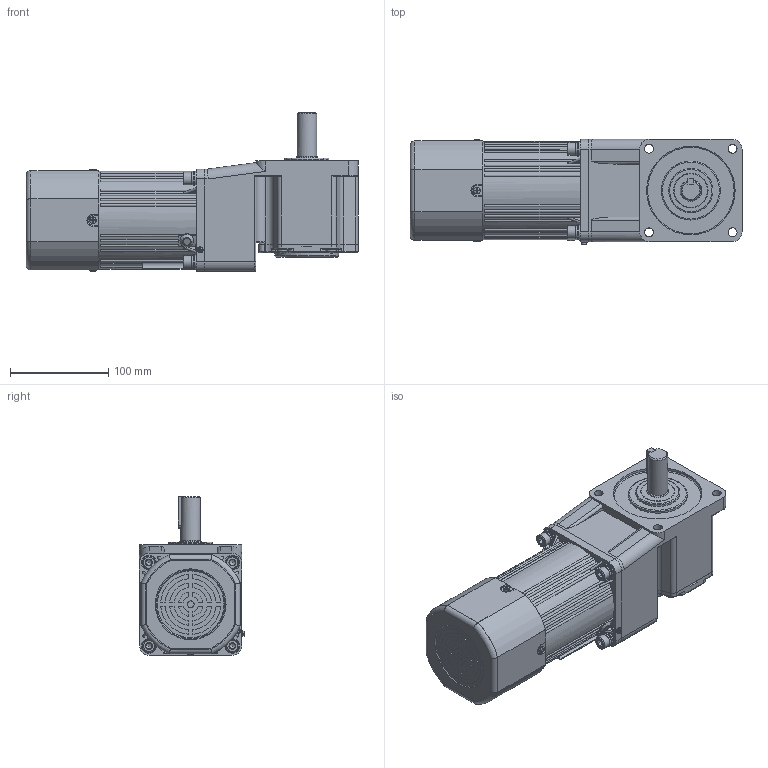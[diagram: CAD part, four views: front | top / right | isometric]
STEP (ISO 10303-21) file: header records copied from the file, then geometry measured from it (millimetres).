
FILE_DESCRIPTION(/* description */ (''),/* implementation_level */ '2;1');
FILE_NAME(/* name */ '100+直角中实-刹车调速风叶-120-140W 新版.stp',/* time_stamp */ '2025-03-25T15:10:24+08:00',/* author */ (''),/* organization */ (''),/* preprocessor_version */ 'ST-DEVELOPER v18.102',/* originating_system */ 'SIEMENS PLM Software NX 2027',/* authorisation */ '');
FILE_SCHEMA (('AP203_CONFIGURATION_CONTROLLED_3D_DESIGN_OF_MECHANICAL_PARTS_AND_ASSEMBLIES_MIM_LF { 1 0 10303 403 2 1 2}'));
Length unit declared in the file: millimetre
Products named in the file (1): 6RK120-140CC·MRF_6GU3-750K-C·15L_stp_M066166857A1
nllv
Bounding box: 337.5 x 106.83 x 161.53 mm (x, y, z)
Volume: 3256472.7 mm3; surface area: 413067.6 mm2
Topology: 25 solids, 25 shells, 1698 faces, 4381 edges, 2837 vertices
Faces by surface type: plane 743, cylinder 527, bspline 213, torus 100, cone 91, sphere 24
Full cylindrical faces by diameter (mm): 2.5 x2, 2.6 x2, 2.7 x1, 3 x1, 3.2 x2, 3.3 x4, 3.5 x4, 3.6 x4, 4 x4, 4.55 x2, 5.1 x2, 5.15 x2, 6 x10, 6.8 x12, 7 x2, 7.5 x2, 7.76 x4, 8.4 x4, 9 x13, 9.3 x1, 9.5 x4, 13 x4, 14 x8, 15 x5, 15.5 x2, 19 x2, 20 x1, 22 x1, 27 x1, 28 x1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
Entity records: 52517 total; most frequent: CARTESIAN_POINT 13252, ORIENTED_EDGE 7996, DIRECTION 7695, EDGE_CURVE 3998, AXIS2_PLACEMENT_3D 3044, VERTEX_POINT 2702, EDGE_LOOP 2141, ADVANCED_FACE 1697
